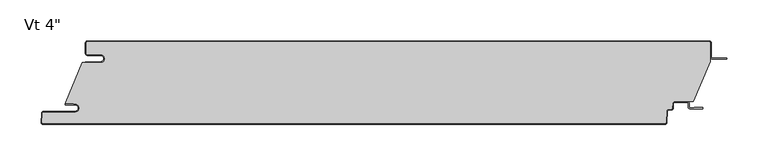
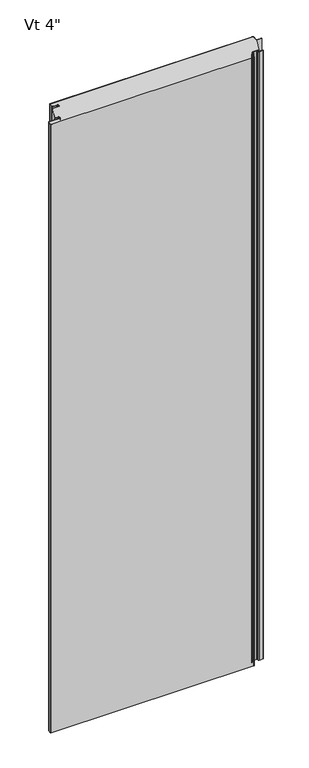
"""IFC4 building model written with IfcOpenShell, lengths in millimetres: plate geometry."""

from ifc_helpers import new_model, si_unit, point, frame, frame_2d, origin, origin_with_axes, place, context, project, spatial, polyline, circle_curve, ellipse_curve, trimmed, segment, composite_curve, outline, extrude, source, transform, mapped, element, save
from ifc_brep_helpers import plane_surface, cylinder_surface, revolved_surface, extruded_surface, advanced_brep


def plate_e335b826(model_context):
    return source(origin(), model_context, "Body", "SolidModel", [
        extrude(outline(composite_curve([segment(polyline([(-361.94375, -16.4625), (-377.81875, -16.4625)]), True, "CONTINUOUS"), segment(trimmed(circle_curve(frame_2d((-377.81875, -15.08125)), 1.38125), [point((-377.81875, -16.4625))], [point((-379.2, -15.08125))], False, "CARTESIAN"), True, "CONTINUOUS"), segment(polyline([(-379.2, -15.08125), (-379.2, -2.38125)]), True, "CONTINUOUS"), segment(trimmed(circle_curve(frame_2d((-377.81875, -2.38125)), 1.38125), [point((-379.2, -2.38125))], [point((-377.81875, -1.0))], False, "CARTESIAN"), True, "CONTINUOUS"), segment(polyline([(-377.81875, -1.0), (377.83125, -1.0)]), True, "CONTINUOUS"), segment(trimmed(circle_curve(frame_2d((377.83125, -2.38125)), 1.38125), [point((377.83125, -1.0))], [point((379.2125, -2.38125))], False, "CARTESIAN"), True, "CONTINUOUS"), segment(polyline([(379.2125, -2.38125), (379.2125, -24.9057308), (358.3955434, -73.6125), (335.9540783, -73.6125)]), True, "CONTINUOUS"), segment(trimmed(circle_curve(frame_2d((335.9540783, -76.2)), 2.5875), [point((335.9540783, -73.6125))], [point((333.3701244, -76.0645807))], True, "CARTESIAN"), True, "CONTINUOUS"), segment(polyline([(333.3701244, -76.0645807), (333.0680481, -81.828539)]), True, "CONTINUOUS"), segment(trimmed(circle_curve(frame_2d((331.6886911, -81.75625)), 1.38125), [point((333.0680481, -81.828539))], [point((331.6886911, -83.1375))], False, "CARTESIAN"), True, "CONTINUOUS"), segment(polyline([(331.6886911, -83.1375), (328.6448847, -83.1375)]), True, "CONTINUOUS"), segment(trimmed(circle_curve(frame_2d((328.6448847, -85.725)), 2.5875), [point((328.6448847, -83.1375))], [point((326.0609307, -85.5895807))], True, "CARTESIAN"), True, "CONTINUOUS"), segment(polyline([(326.0609307, -85.5895807), (325.3428677, -99.291039)]), True, "CONTINUOUS"), segment(trimmed(circle_curve(frame_2d((323.9635107, -99.21875)), 1.38125), [point((325.3428677, -99.291039))], [point((323.9635107, -100.6))], False, "CARTESIAN"), True, "CONTINUOUS"), segment(polyline([(323.9635107, -100.6), (-431.6799535, -100.6)]), True, "CONTINUOUS"), segment(trimmed(circle_curve(frame_2d((-431.6799535, -99.21875)), 1.38125), [point((-431.6799535, -100.6))], [point((-433.0593106, -99.146461))], False, "CARTESIAN"), True, "CONTINUOUS"), segment(polyline([(-433.0593106, -99.146461), (-432.4769291, -88.033961)]), True, "CONTINUOUS"), segment(trimmed(circle_curve(frame_2d((-431.0975721, -88.10625)), 1.38125), [point((-432.4769291, -88.033961))], [point((-431.0975721, -86.725))], False, "CARTESIAN"), True, "CONTINUOUS"), segment(polyline([(-431.0975721, -86.725), (-392.9142674, -86.725)]), True, "CONTINUOUS"), segment(trimmed(circle_curve(frame_2d((-392.9142674, -81.75625)), 4.96875), [point((-392.9142674, -86.725))], [point((-392.9142674, -76.7875))], True, "CARTESIAN"), True, "CONTINUOUS"), segment(polyline([(-392.9142674, -76.7875), (-394.5017674, -76.99375), (-394.5017674, -76.2), (-404.0125, -76.2), (-404.0125, -74.6157227), (-384.1260922, -26.4), (-361.94375, -26.4)]), True, "CONTINUOUS"), segment(trimmed(circle_curve(frame_2d((-361.94375, -21.43125)), 4.96875), [point((-361.94375, -26.4))], [point((-361.94375, -16.4625))], True, "CARTESIAN"), True, "CONTINUOUS")], self_intersect=False)), origin_with_axes(), (0.0, 0.0, 1.0), 2400.0),
        extrude(outline(composite_curve([segment(polyline([(-380.2, -25.4), (-361.94375, -25.4)]), True, "CONTINUOUS"), segment(trimmed(circle_curve(frame_2d((-361.94375, -21.43125)), 3.96875), [point((-361.94375, -25.4))], [point((-361.94375, -17.4625))], True, "CARTESIAN"), True, "CONTINUOUS"), segment(polyline([(-361.94375, -17.4625), (-377.81875, -17.4625)]), True, "CONTINUOUS"), segment(trimmed(circle_curve(frame_2d((-377.81875, -15.08125)), 2.38125), [point((-377.81875, -17.4625))], [point((-380.2, -15.08125))], False, "CARTESIAN"), True, "CONTINUOUS"), segment(polyline([(-380.2, -15.08125), (-380.2, -2.38125)]), True, "CONTINUOUS"), segment(trimmed(circle_curve(frame_2d((-377.81875, -2.38125)), 2.38125), [point((-380.2, -2.38125))], [point((-377.81875, 0.0))], False, "CARTESIAN"), True, "CONTINUOUS"), segment(polyline([(-377.81875, 0.0), (377.83125, 0.0)]), True, "CONTINUOUS"), segment(trimmed(circle_curve(frame_2d((377.83125, -2.38125)), 2.38125), [point((377.83125, 0.0))], [point((380.2125, -2.38125))], False, "CARTESIAN"), True, "CONTINUOUS"), segment(polyline([(380.2125, -2.38125), (380.2125, -19.446875)]), True, "CONTINUOUS"), segment(trimmed(circle_curve(frame_2d((381.8, -19.446875)), 1.5875), [point((380.2125, -19.446875))], [point((381.8, -21.034375))], True, "CARTESIAN"), True, "CONTINUOUS"), segment(polyline([(381.8, -21.034375), (399.2625, -21.034375), (399.2625, -22.034375), (381.8, -22.034375)]), True, "CONTINUOUS"), segment(trimmed(circle_curve(frame_2d((381.8, -19.446875)), 2.5875), [point((381.8, -22.034375))], [point((379.2125, -19.446875))], False, "CARTESIAN"), True, "CONTINUOUS"), segment(polyline([(379.2125, -19.446875), (379.2125, -2.38125)]), True, "CONTINUOUS"), segment(trimmed(circle_curve(frame_2d((377.83125, -2.38125)), 1.38125), [point((379.2125, -2.38125))], [point((377.83125, -1.0))], True, "CARTESIAN"), True, "CONTINUOUS"), segment(polyline([(377.83125, -1.0), (-377.81875, -1.0)]), True, "CONTINUOUS"), segment(trimmed(circle_curve(frame_2d((-377.81875, -2.38125)), 1.38125), [point((-377.81875, -1.0))], [point((-379.2, -2.38125))], True, "CARTESIAN"), True, "CONTINUOUS"), segment(polyline([(-379.2, -2.38125), (-379.2, -15.08125)]), True, "CONTINUOUS"), segment(trimmed(circle_curve(frame_2d((-377.81875, -15.08125)), 1.38125), [point((-379.2, -15.08125))], [point((-377.81875, -16.4625))], True, "CARTESIAN"), True, "CONTINUOUS"), segment(polyline([(-377.81875, -16.4625), (-361.94375, -16.4625)]), True, "CONTINUOUS"), segment(trimmed(circle_curve(frame_2d((-361.94375, -21.43125)), 4.96875), [point((-361.94375, -16.4625))], [point((-361.94375, -26.4))], False, "CARTESIAN"), True, "CONTINUOUS"), segment(polyline([(-361.94375, -26.4), (-380.2, -26.4), (-380.2, -25.4)]), True, "CONTINUOUS")], self_intersect=False)), origin_with_axes(), (0.0, 0.0, 1.0), 2400.0),
        advanced_brep(
        [(-404.2252049, -76.2, 2400.0), (-404.2252049, -77.7875, 2400.0), (-392.9142674, -77.7875, 2400.0), (-392.9142674, -85.725, 2400.0), (-431.0975721, -85.725, 2400.0), (-433.4755586, -87.981625, 2400.0), (-434.0579401, -99.094125, 2400.0), (-431.6799535, -101.6, 2400.0), (323.9635107, -101.6, 2400.0), (326.3414973, -99.343375, 2400.0), (327.0595603, -85.6419167, 2400.0), (328.6448847, -84.1375, 2400.0), (331.6886911, -84.1375, 2400.0), (334.0666776, -81.880875, 2400.0), (334.3687539, -76.1169167, 2400.0), (335.9540783, -74.6125, 2400.0), (350.8294826, -74.6125, 2400.0), (352.4169826, -76.2, 2400.0), (352.4169826, -80.3671875, 2400.0), (354.7982326, -82.7484375, 2400.0), (369.2898532, -82.7484375, 2400.0), (369.2898532, -80.9546875, 2400.0), (359.5607326, -80.9546875, 2400.0), (359.5607326, -81.7484375, 2400.0), (354.7982326, -81.7484375, 2400.0), (353.4169826, -80.3671875, 2400.0), (353.4169826, -76.2, 2400.0), (350.8294826, -73.6125, 2400.0), (335.9540783, -73.6125, 2400.0), (333.3701244, -76.0645807, 2400.0), (333.0680481, -81.828539, 2400.0), (331.6886911, -83.1375, 2400.0), (328.6448847, -83.1375, 2400.0), (326.0609307, -85.5895807, 2400.0), (325.3428677, -99.291039, 2400.0), (323.9635107, -100.6, 2400.0), (-431.6799535, -100.6, 2400.0), (-433.0593106, -99.146461, 2400.0), (-432.4769291, -88.033961, 2400.0), (-431.0975721, -86.725, 2400.0), (-392.9142674, -86.725, 2400.0), (-392.9142674, -76.7875, 2400.0), (-394.5017674, -76.99375, 2400.0), (-394.5017674, -76.2, 2400.0), (-404.2252049, -76.2, 0.0), (-394.5017674, -76.2, 0.0), (-394.5017674, -76.99375, 0.0), (-392.9142674, -76.7875, 0.0), (-392.9142674, -86.725, 0.0), (-431.0975721, -86.725, 0.0), (-432.4769291, -88.033961, 0.0), (-433.0593106, -99.146461, 0.0), (-431.6799535, -100.6, 0.0), (323.9635107, -100.6, 0.0), (325.3428677, -99.291039, 0.0), (326.0609307, -85.5895807, 0.0), (328.6448847, -83.1375, 0.0), (331.6886911, -83.1375, 0.0), (333.0680481, -81.828539, 0.0), (333.3701244, -76.0645807, 0.0), (335.9540783, -73.6125, 0.0), (350.8294826, -73.6125, 0.0), (353.4169826, -76.2, 0.0), (353.4169826, -80.3671875, 0.0), (354.7982326, -81.7484375, 0.0), (359.5607326, -81.7484375, 0.0), (359.5607326, -80.9546875, 0.0), (369.2898532, -80.9546875, 0.0), (369.2898532, -82.7484375, 0.0), (354.7982326, -82.7484375, 0.0), (352.4169826, -80.3671875, 0.0), (352.4169826, -76.2, 0.0), (350.8294826, -74.6125, 0.0), (335.9540783, -74.6125, 0.0), (334.3687539, -76.1169167, 0.0), (334.0666776, -81.880875, 0.0), (331.6886911, -84.1375, 0.0), (328.6448847, -84.1375, 0.0), (327.0595603, -85.6419167, 0.0), (326.3414973, -99.343375, 0.0), (323.9635107, -101.6, 0.0), (-431.6799535, -101.6, 0.0), (-434.0579401, -99.094125, 0.0), (-433.4755586, -87.981625, 0.0), (-431.0975721, -85.725, 0.0), (-392.9142674, -85.725, 0.0), (-392.9142674, -77.7875, 0.0), (-404.2252049, -77.7875, 0.0)],
        [
            (0, 1, circle_curve(frame((-404.2252049, -76.99375, 2400.0), z_axis=(0.0, 0.0, 1.0), x_axis=(1.0, 0.0, 0.0)), 0.79375)),
            (1, 2),
            (2, 3, circle_curve(frame((-392.9142674, -81.75625, 2400.0), z_axis=(0.0, 0.0, -1.0), x_axis=(1.0, 0.0, 0.0)), 3.96875)),
            (3, 4),
            (4, 5, circle_curve(frame((-431.0975721, -88.10625, 2400.0), z_axis=(0.0, 0.0, 1.0), x_axis=(1.0, 0.0, 0.0)), 2.38125)),
            (5, 6),
            (6, 7, circle_curve(frame((-431.6799535, -99.21875, 2400.0), z_axis=(0.0, 0.0, 1.0), x_axis=(1.0, 0.0, 0.0)), 2.38125)),
            (7, 8),
            (8, 9, circle_curve(frame((323.9635107, -99.21875, 2400.0), z_axis=(0.0, 0.0, 1.0), x_axis=(1.0, 0.0, 0.0)), 2.38125)),
            (9, 10),
            (10, 11, circle_curve(frame((328.6448847, -85.725, 2400.0), z_axis=(0.0, 0.0, -1.0), x_axis=(1.0, 0.0, 0.0)), 1.5875)),
            (11, 12),
            (12, 13, circle_curve(frame((331.6886911, -81.75625, 2400.0), z_axis=(0.0, 0.0, 1.0), x_axis=(1.0, 0.0, 0.0)), 2.38125)),
            (13, 14),
            (14, 15, circle_curve(frame((335.9540783, -76.2, 2400.0), z_axis=(0.0, 0.0, -1.0), x_axis=(1.0, 0.0, 0.0)), 1.5875)),
            (15, 16),
            (16, 17, circle_curve(frame((350.8294826, -76.2, 2400.0), z_axis=(0.0, 0.0, -1.0), x_axis=(1.0, 0.0, 0.0)), 1.5875)),
            (17, 18),
            (18, 19, circle_curve(frame((354.7982326, -80.3671875, 2400.0), z_axis=(0.0, 0.0, 1.0), x_axis=(1.0, 0.0, 0.0)), 2.38125)),
            (19, 20),
            (20, 21, ellipse_curve(frame((369.2898532, -81.8515625, 2400.0), z_axis=(0.0, 0.0, 1.0), x_axis=(0.0, 1.0, 0.0)), 0.896875, 0.7852275)),
            (21, 22),
            (22, 23),
            (23, 24),
            (24, 25, circle_curve(frame((354.7982326, -80.3671875, 2400.0), z_axis=(0.0, 0.0, -1.0), x_axis=(1.0, 0.0, 0.0)), 1.38125)),
            (25, 26),
            (26, 27, circle_curve(frame((350.8294826, -76.2, 2400.0), z_axis=(0.0, 0.0, 1.0), x_axis=(1.0, 0.0, 0.0)), 2.5875)),
            (27, 28),
            (28, 29, circle_curve(frame((335.9540783, -76.2, 2400.0), z_axis=(0.0, 0.0, 1.0), x_axis=(1.0, 0.0, 0.0)), 2.5875)),
            (29, 30),
            (30, 31, circle_curve(frame((331.6886911, -81.75625, 2400.0), z_axis=(0.0, 0.0, -1.0), x_axis=(1.0, 0.0, 0.0)), 1.38125)),
            (31, 32),
            (32, 33, circle_curve(frame((328.6448847, -85.725, 2400.0), z_axis=(0.0, 0.0, 1.0), x_axis=(1.0, 0.0, 0.0)), 2.5875)),
            (33, 34),
            (34, 35, circle_curve(frame((323.9635107, -99.21875, 2400.0), z_axis=(0.0, 0.0, -1.0), x_axis=(1.0, 0.0, 0.0)), 1.38125)),
            (35, 36),
            (36, 37, circle_curve(frame((-431.6799535, -99.21875, 2400.0), z_axis=(0.0, 0.0, -1.0), x_axis=(1.0, 0.0, 0.0)), 1.38125)),
            (37, 38),
            (38, 39, circle_curve(frame((-431.0975721, -88.10625, 2400.0), z_axis=(0.0, 0.0, -1.0), x_axis=(1.0, 0.0, 0.0)), 1.38125)),
            (39, 40),
            (40, 41, circle_curve(frame((-392.9142674, -81.75625, 2400.0), z_axis=(0.0, 0.0, 1.0), x_axis=(1.0, 0.0, 0.0)), 4.96875)),
            (41, 42),
            (42, 43),
            (43, 0),
            (44, 45),
            (45, 46),
            (46, 47),
            (47, 48, circle_curve(frame((-392.9142674, -81.75625, 0.0), z_axis=(0.0, 0.0, -1.0), x_axis=(1.0, 0.0, 0.0)), 4.96875)),
            (48, 49),
            (49, 50, circle_curve(frame((-431.0975721, -88.10625, 0.0), z_axis=(0.0, 0.0, 1.0), x_axis=(1.0, 0.0, 0.0)), 1.38125)),
            (50, 51),
            (51, 52, circle_curve(frame((-431.6799535, -99.21875, 0.0), z_axis=(0.0, 0.0, 1.0), x_axis=(1.0, 0.0, 0.0)), 1.38125)),
            (52, 53),
            (53, 54, circle_curve(frame((323.9635107, -99.21875, 0.0), z_axis=(0.0, 0.0, 1.0), x_axis=(1.0, 0.0, 0.0)), 1.38125)),
            (54, 55),
            (55, 56, circle_curve(frame((328.6448847, -85.725, 0.0), z_axis=(0.0, 0.0, -1.0), x_axis=(1.0, 0.0, 0.0)), 2.5875)),
            (56, 57),
            (57, 58, circle_curve(frame((331.6886911, -81.75625, 0.0), z_axis=(0.0, 0.0, 1.0), x_axis=(1.0, 0.0, 0.0)), 1.38125)),
            (58, 59),
            (59, 60, circle_curve(frame((335.9540783, -76.2, 0.0), z_axis=(0.0, 0.0, -1.0), x_axis=(1.0, 0.0, 0.0)), 2.5875)),
            (60, 61),
            (61, 62, circle_curve(frame((350.8294826, -76.2, 0.0), z_axis=(0.0, 0.0, -1.0), x_axis=(1.0, 0.0, 0.0)), 2.5875)),
            (62, 63),
            (63, 64, circle_curve(frame((354.7982326, -80.3671875, 0.0), z_axis=(0.0, 0.0, 1.0), x_axis=(1.0, 0.0, 0.0)), 1.38125)),
            (64, 65),
            (65, 66),
            (66, 67),
            (67, 68, ellipse_curve(frame((369.2898532, -81.8515625, 0.0), z_axis=(0.0, 0.0, -1.0), x_axis=(0.0, 1.0, 0.0)), 0.896875, 0.7852275)),
            (68, 69),
            (69, 70, circle_curve(frame((354.7982326, -80.3671875, 0.0), z_axis=(0.0, 0.0, -1.0), x_axis=(1.0, 0.0, 0.0)), 2.38125)),
            (70, 71),
            (71, 72, circle_curve(frame((350.8294826, -76.2, 0.0), z_axis=(0.0, 0.0, 1.0), x_axis=(1.0, 0.0, 0.0)), 1.5875)),
            (72, 73),
            (73, 74, circle_curve(frame((335.9540783, -76.2, 0.0), z_axis=(0.0, 0.0, 1.0), x_axis=(1.0, 0.0, 0.0)), 1.5875)),
            (74, 75),
            (75, 76, circle_curve(frame((331.6886911, -81.75625, 0.0), z_axis=(0.0, 0.0, -1.0), x_axis=(1.0, 0.0, 0.0)), 2.38125)),
            (76, 77),
            (77, 78, circle_curve(frame((328.6448847, -85.725, 0.0), z_axis=(0.0, 0.0, 1.0), x_axis=(1.0, 0.0, 0.0)), 1.5875)),
            (78, 79),
            (79, 80, circle_curve(frame((323.9635107, -99.21875, 0.0), z_axis=(0.0, 0.0, -1.0), x_axis=(1.0, 0.0, 0.0)), 2.38125)),
            (80, 81),
            (81, 82, circle_curve(frame((-431.6799535, -99.21875, 0.0), z_axis=(0.0, 0.0, -1.0), x_axis=(1.0, 0.0, 0.0)), 2.38125)),
            (82, 83),
            (83, 84, circle_curve(frame((-431.0975721, -88.10625, 0.0), z_axis=(0.0, 0.0, -1.0), x_axis=(1.0, 0.0, 0.0)), 2.38125)),
            (84, 85),
            (85, 86, circle_curve(frame((-392.9142674, -81.75625, 0.0), z_axis=(0.0, 0.0, 1.0), x_axis=(1.0, 0.0, 0.0)), 3.96875)),
            (86, 87),
            (87, 44, circle_curve(frame((-404.2252049, -76.99375, 0.0), z_axis=(0.0, 0.0, -1.0), x_axis=(1.0, 0.0, 0.0)), 0.79375)),
            (20, 68),
            (67, 21),
            (66, 22),
            (65, 23),
            (41, 47),
            (46, 42),
            (45, 43),
            (40, 48),
            (39, 49),
            (38, 50),
            (37, 51),
            (33, 55),
            (54, 34),
            (32, 56),
            (31, 57),
            (30, 58),
            (29, 59),
            (28, 60),
            (64, 24),
            (63, 25),
            (62, 26),
            (61, 27),
            (18, 70),
            (69, 19),
            (17, 71),
            (16, 72),
            (15, 73),
            (14, 74),
            (13, 75),
            (12, 76),
            (11, 77),
            (10, 78),
            (9, 79),
            (5, 83),
            (82, 6),
            (4, 84),
            (3, 85),
            (2, 86),
            (1, 87),
            (0, 44),
            (36, 52),
            (35, 53),
            (8, 80),
            (7, 81),
        ],
        [
            plane_surface(frame((0.00625, -101.6, 2400.0), z_axis=(0.0, 0.0, 1.0), x_axis=(0.0, -1.0, 0.0))),
            plane_surface(frame((0.00625, -101.6, 0.0), z_axis=(0.0, 0.0, -1.0), x_axis=(0.0, -1.0, 0.0))),
            extruded_surface(trimmed(ellipse_curve(frame((369.2898532, -81.8515625, 2400.0), z_axis=(0.0, 0.0, -1.0), x_axis=(0.0, 1.0, 0.0)), 0.896875, 0.7852275), [point((369.2898532, -80.9546875, 2400.0))], [point((369.2898532, -82.7484375, 2400.0))], True, "CARTESIAN"), (0.0, 0.0, -2400.0), 2400.0),
            plane_surface(frame((359.5607326, -80.9546875, 2400.0), z_axis=(0.0, 1.0, 0.0), x_axis=(0.0, 0.0, -1.0))),
            plane_surface(frame((359.5607326, -81.7484375, 2400.0), z_axis=(-1.0, 0.0, 0.0), x_axis=(0.0, 0.0, -1.0))),
            plane_surface(frame((-394.5017674, -76.99375, 2400.0), z_axis=(-0.12883844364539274, 0.9916655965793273, 0.0), x_axis=(0.0, 0.0, -1.0))),
            plane_surface(frame((-394.5017674, -76.2, 2400.0), z_axis=(1.0, 0.0, 0.0), x_axis=(0.0, 0.0, -1.0))),
            cylinder_surface(frame((-392.9142674, -81.75625, 2400.0), z_axis=(0.0, 0.0, 1.0), x_axis=(1.0, 0.0, 0.0)), 4.96875),
            plane_surface(frame((-392.9142674, -86.725, 2400.0), z_axis=(0.0, -1.0, 0.0), x_axis=(0.0, 0.0, -1.0))),
            revolved_surface(polyline([(-429.71632209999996, -88.10625, 0.0), (-429.71632209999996, -88.10625, 2400.0)]), (-431.0975721, -88.10625, 2400.0), (0.0, 0.0, -1.0)),
            plane_surface(frame((-432.4769291, -88.033961, 2400.0), z_axis=(0.9986295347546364, -0.05233595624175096, 0.0), x_axis=(0.0, 0.0, -1.0))),
            plane_surface(frame((325.3428677, -99.291039, 2400.0), z_axis=(-0.9986295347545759, 0.05233595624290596, 0.0), x_axis=(0.0, 0.0, -1.0))),
            cylinder_surface(frame((328.6448847, -85.725, 2400.0), z_axis=(0.0, 0.0, 1.0), x_axis=(1.0, 0.0, 0.0)), 2.5875),
            plane_surface(frame((328.6448847, -83.1375, 2400.0), z_axis=(0.0, 1.0, 0.0), x_axis=(0.0, 0.0, -1.0))),
            revolved_surface(polyline([(333.06994110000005, -81.75625, 0.0), (333.06994110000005, -81.75625, 2400.0)]), (331.6886911, -81.75625, 2400.0), (0.0, 0.0, -1.0)),
            plane_surface(frame((333.0680481, -81.828539, 2400.0), z_axis=(-0.998629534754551, 0.05233595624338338, 0.0), x_axis=(0.0, 0.0, -1.0))),
            cylinder_surface(frame((335.9540783, -76.2, 2400.0), z_axis=(0.0, 0.0, 1.0), x_axis=(1.0, 0.0, 0.0)), 2.5875),
            plane_surface(frame((354.7982326, -81.7484375, 2400.0), z_axis=(0.0, 1.0, 0.0), x_axis=(0.0, 0.0, -1.0))),
            revolved_surface(polyline([(356.17948260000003, -80.3671875, 0.0), (356.17948260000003, -80.3671875, 2400.0)]), (354.7982326, -80.3671875, 2400.0), (0.0, 0.0, -1.0)),
            plane_surface(frame((353.4169826, -76.2, 2400.0), z_axis=(1.0, 0.0, 0.0), x_axis=(0.0, 0.0, -1.0))),
            cylinder_surface(frame((350.8294826, -76.2, 2400.0), z_axis=(0.0, 0.0, 1.0), x_axis=(1.0, 0.0, 0.0)), 2.5875),
            plane_surface(frame((335.9540783, -73.6125, 2400.0), z_axis=(0.0, 1.0, 0.0), x_axis=(0.0, 0.0, -1.0))),
            cylinder_surface(frame((354.7982326, -80.3671875, 2400.0), z_axis=(0.0, 0.0, 1.0), x_axis=(1.0, 0.0, 0.0)), 2.38125),
            plane_surface(frame((352.4169826, -80.3671875, 2400.0), z_axis=(-1.0, 0.0, 0.0), x_axis=(0.0, 0.0, -1.0))),
            revolved_surface(polyline([(352.4169826, -76.2, 0.0), (352.4169826, -76.2, 2400.0)]), (350.8294826, -76.2, 2400.0), (0.0, 0.0, -1.0)),
            plane_surface(frame((350.8294826, -74.6125, 2400.0), z_axis=(0.0, -1.0, 0.0), x_axis=(0.0, 0.0, -1.0))),
            revolved_surface(polyline([(337.54157829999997, -76.2, 0.0), (337.54157829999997, -76.2, 2400.0)]), (335.9540783, -76.2, 2400.0), (0.0, 0.0, -1.0)),
            plane_surface(frame((334.3687539, -76.1169167, 2400.0), z_axis=(0.9986295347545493, -0.05233595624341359, 0.0), x_axis=(0.0, 0.0, -1.0))),
            cylinder_surface(frame((331.6886911, -81.75625, 2400.0), z_axis=(0.0, 0.0, 1.0), x_axis=(1.0, 0.0, 0.0)), 2.38125),
            plane_surface(frame((331.6886911, -84.1375, 2400.0), z_axis=(0.0, -1.0, 0.0), x_axis=(0.0, 0.0, -1.0))),
            revolved_surface(polyline([(330.23238469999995, -85.725, 0.0), (330.23238469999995, -85.725, 2400.0)]), (328.6448847, -85.725, 2400.0), (0.0, 0.0, -1.0)),
            plane_surface(frame((327.0595603, -85.6419167, 2400.0), z_axis=(0.9986295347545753, -0.052335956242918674, 0.0), x_axis=(0.0, 0.0, -1.0))),
            plane_surface(frame((-434.0579401, -99.094125, 2400.0), z_axis=(-0.9986295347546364, 0.05233595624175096, 0.0), x_axis=(0.0, 0.0, -1.0))),
            cylinder_surface(frame((-431.0975721, -88.10625, 2400.0), z_axis=(0.0, 0.0, 1.0), x_axis=(1.0, 0.0, 0.0)), 2.38125),
            plane_surface(frame((-431.0975721, -85.725, 2400.0), z_axis=(0.0, 1.0, 0.0), x_axis=(0.0, 0.0, -1.0))),
            revolved_surface(polyline([(-388.9455174, -81.75625, 0.0), (-388.9455174, -81.75625, 2400.0)]), (-392.9142674, -81.75625, 2400.0), (0.0, 0.0, -1.0)),
            plane_surface(frame((-392.9142674, -77.7875, 2400.0), z_axis=(0.0, -1.0, 0.0), x_axis=(0.0, 0.0, -1.0))),
            cylinder_surface(frame((-404.2252049, -76.99375, 2400.0), z_axis=(0.0, 0.0, 1.0), x_axis=(1.0, 0.0, 0.0)), 0.79375),
            plane_surface(frame((-404.2252049, -76.2, 2400.0), z_axis=(0.0, 1.0, 0.0), x_axis=(0.0, 0.0, -1.0))),
            revolved_surface(polyline([(-430.2987035, -99.21875, 0.0), (-430.2987035, -99.21875, 2400.0)]), (-431.6799535, -99.21875, 2400.0), (0.0, 0.0, -1.0)),
            plane_surface(frame((-431.6799535, -100.6, 2400.0), z_axis=(0.0, 1.0, 0.0), x_axis=(0.0, 0.0, -1.0))),
            revolved_surface(polyline([(325.3447607, -99.21875, 0.0), (325.3447607, -99.21875, 2400.0)]), (323.9635107, -99.21875, 2400.0), (0.0, 0.0, -1.0)),
            plane_surface(frame((369.2898532, -82.7484375, 2400.0), z_axis=(0.0, -1.0, 0.0), x_axis=(0.0, 0.0, -1.0))),
            cylinder_surface(frame((323.9635107, -99.21875, 2400.0), z_axis=(0.0, 0.0, 1.0), x_axis=(1.0, 0.0, 0.0)), 2.38125),
            plane_surface(frame((323.9635107, -101.6, 2400.0), z_axis=(0.0, -1.0, 0.0), x_axis=(0.0, 0.0, -1.0))),
            cylinder_surface(frame((-431.6799535, -99.21875, 2400.0), z_axis=(0.0, 0.0, 1.0), x_axis=(1.0, 0.0, 0.0)), 2.38125),
        ],
        [
            (0, [[1, 2, 3, 4, 5, 6, 7, 8, 9, 10, 11, 12, 13, 14, 15, 16, 17, 18, 19, 20, 21, 22, 23, 24, 25, 26, 27, 28, 29, 30, 31, 32, 33, 34, 35, 36, 37, 38, 39, 40, 41, 42, 43, 44]]),
            (1, [[45, 46, 47, 48, 49, 50, 51, 52, 53, 54, 55, 56, 57, 58, 59, 60, 61, 62, 63, 64, 65, 66, 67, 68, 69, 70, 71, 72, 73, 74, 75, 76, 77, 78, 79, 80, 81, 82, 83, 84, 85, 86, 87, 88]]),
            (2, [[89, -68, 90, -21]]),
            (3, [[-90, -67, 91, -22]]),
            (4, [[-91, -66, 92, -23]]),
            (5, [[93, -47, 94, -42]]),
            (6, [[-94, -46, 95, -43]]),
            (7, [[96, -48, -93, -41]]),
            (8, [[97, -49, -96, -40]]),
            (9, [[98, -50, -97, -39]]),
            (10, [[99, -51, -98, -38]]),
            (11, [[100, -55, 101, -34]]),
            (12, [[102, -56, -100, -33]]),
            (13, [[103, -57, -102, -32]]),
            (14, [[104, -58, -103, -31]]),
            (15, [[105, -59, -104, -30]]),
            (16, [[106, -60, -105, -29]]),
            (17, [[-92, -65, 107, -24]]),
            (18, [[-107, -64, 108, -25]]),
            (19, [[-108, -63, 109, -26]]),
            (20, [[-109, -62, 110, -27]]),
            (21, [[-110, -61, -106, -28]]),
            (22, [[111, -70, 112, -19]]),
            (23, [[113, -71, -111, -18]]),
            (24, [[114, -72, -113, -17]]),
            (25, [[115, -73, -114, -16]]),
            (26, [[116, -74, -115, -15]]),
            (27, [[117, -75, -116, -14]]),
            (28, [[118, -76, -117, -13]]),
            (29, [[119, -77, -118, -12]]),
            (30, [[120, -78, -119, -11]]),
            (31, [[121, -79, -120, -10]]),
            (32, [[122, -83, 123, -6]]),
            (33, [[124, -84, -122, -5]]),
            (34, [[125, -85, -124, -4]]),
            (35, [[126, -86, -125, -3]]),
            (36, [[127, -87, -126, -2]]),
            (37, [[128, -88, -127, -1]]),
            (38, [[-95, -45, -128, -44]]),
            (39, [[129, -52, -99, -37]]),
            (40, [[130, -53, -129, -36]]),
            (41, [[-101, -54, -130, -35]]),
            (42, [[-112, -69, -89, -20]]),
            (43, [[131, -80, -121, -9]]),
            (44, [[132, -81, -131, -8]]),
            (45, [[-123, -82, -132, -7]]),
        ],
    ),
    ])


if __name__ == "__main__":
    model = new_model("IFC4")
    model_context = context("Model", 3, world=origin())
    ifc_project = project(units=[si_unit("LENGTHUNIT", "METRE", prefix="MILLI")], contexts=[model_context])
    site = spatial("IfcSite", under=ifc_project)
    building = spatial("IfcBuilding", under=site)
    placement = place(None, origin())
    plate_shape = plate_e335b826(model_context)
    element("IfcPlate", 1, ObjectType="KIP-30-DWTR-R19-CP-Vt-F : Vt 4\"", at=placement, inside=building, context=model_context, shape_type="MappedRepresentation", body=[
        mapped(plate_shape, transform((0.0, 0.0, 0.0), x_axis=(1.0, 0.0, 0.0), y_axis=(0.0, 1.0, 0.0), z_axis=(0.0, 0.0, 1.0))),
    ])
    save(model, "model.ifc")
